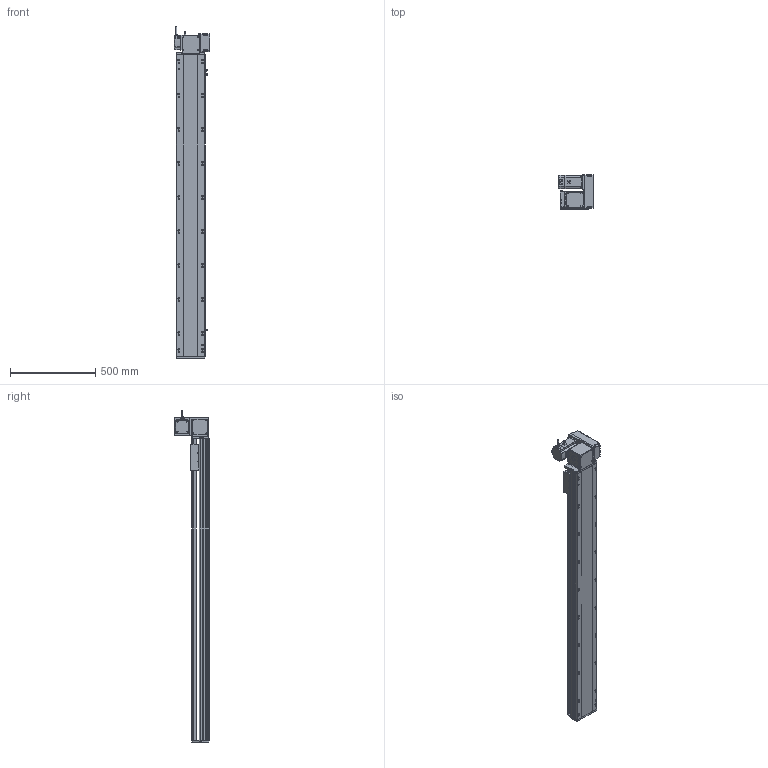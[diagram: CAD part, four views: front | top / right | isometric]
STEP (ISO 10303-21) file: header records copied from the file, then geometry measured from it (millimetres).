
FILE_DESCRIPTION (( 'STEP AP214' ), '1' );
FILE_NAME ('RTB17S-XX-1500-RW-M75-C4.STEP', '2025-12-12T02:39:03', ( '' ), ( '' ), 'SwSTEP 2.0', 'SolidWorks 2018', '' );
FILE_SCHEMA (( 'AUTOMOTIVE_DESIGN' ));
Length unit declared in the file: millimetre
Products named in the file (15): RTB17S-RW-々湍釱蚾饜-750W^RTB17S-XX-XX-RW-M75-C4; RTB22S-GY-005P^RTB17S-RW-々湍釱蚾饜-750W_RTB17S-XX-XX-RW-M75-C4; RTB22S-GY-017P^RTB17S-RW-々湍釱蚾饜-750W_RTB17S-XX-XX-RW-M75-C4; RTB17S-XX-1500-RW-M75-C4; 750W萇儂^RTB17S-XX-XX-RW-M75-C4; RTB17S-L-001-耜醱啣^RTB17S-XX-XX-RW-M75-C4; RMP17S-L-014-T20-P75--々湍釱^RTB17S-RW-々湍釱蚾饜-750W_RTB17S-XX-XX-RW-M75-C4; RTB22S-GY-008-M75--萇儂啣^RTB17S-RW-々湍釱蚾饜-750W_RTB17S-XX-XX-RW-M75-C4; RTB17S-賑釱^RTB17S-XX-XX-RW-M75-C4; RTB17S-L-007奻裔^RTB17S-XX-XX-RW-M75-C4; EE672^RTB17S-XX-XX-RW-M75-C4; RTB17-R-011菁釱^RTB17S-XX-XX-RW-M75-C4; RTB17S-L-004-賑釱^RTB17S-賑釱_RTB17S-XX-XX-RW-M75-C4; RTB22S-GY-018P^RTB17S-RW-々湍釱蚾饜-750W_RTB17S-XX-XX-RW-M75-C4; RTH13-BL-012覜茼え俋离^RTB17S-賑釱_RTB17S-XX-XX-RW-M75-C4
Assembly tree (17 placements, depth 3):
  RTB17S-XX-1500-RW-M75-C4
    RTB17-R-011菁釱^RTB17S-XX-XX-RW-M75-C4
    EE672^RTB17S-XX-XX-RW-M75-C4  x3
    RTB17S-L-001-耜醱啣^RTB17S-XX-XX-RW-M75-C4
    RTB17S-賑釱^RTB17S-XX-XX-RW-M75-C4
      RTB17S-L-004-賑釱^RTB17S-賑釱_RTB17S-XX-XX-RW-M75-C4
      RTH13-BL-012覜茼え俋离^RTB17S-賑釱_RTB17S-XX-XX-RW-M75-C4
    RTB17S-L-007奻裔^RTB17S-XX-XX-RW-M75-C4
    750W萇儂^RTB17S-XX-XX-RW-M75-C4
    RTB17S-RW-々湍釱蚾饜-750W^RTB17S-XX-XX-RW-M75-C4
      RMP17S-L-014-T20-P75--々湍釱^RTB17S-RW-々湍釱蚾饜-750W_RTB17S-XX-XX-RW-M75-C4
      RTB22S-GY-005P^RTB17S-RW-々湍釱蚾饜-750W_RTB17S-XX-XX-RW-M75-C4
      RTB22S-GY-017P^RTB17S-RW-々湍釱蚾饜-750W_RTB17S-XX-XX-RW-M75-C4  x2
      RTB22S-GY-008-M75--萇儂啣^RTB17S-RW-々湍釱蚾饜-750W_RTB17S-XX-XX-RW-M75-C4
      RTB22S-GY-018P^RTB17S-RW-々湍釱蚾饜-750W_RTB17S-XX-XX-RW-M75-C4
Bounding box: 207.4 x 201.5 x 1952.2 mm (x, y, z)
Volume: 15324097.4 mm3; surface area: 2685983 mm2
Topology: 17 solids, 17 shells, 2137 faces, 5944 edges, 3842 vertices
Faces by surface type: plane 976, cylinder 745, bspline 294, cone 110, sphere 8, torus 4
Entity records: 60406 total; most frequent: CARTESIAN_POINT 17808, ORIENTED_EDGE 8732, DIRECTION 8132, EDGE_CURVE 4366, AXIS2_PLACEMENT_3D 2862, VERTEX_POINT 2846, LINE 2408, VECTOR 2408
